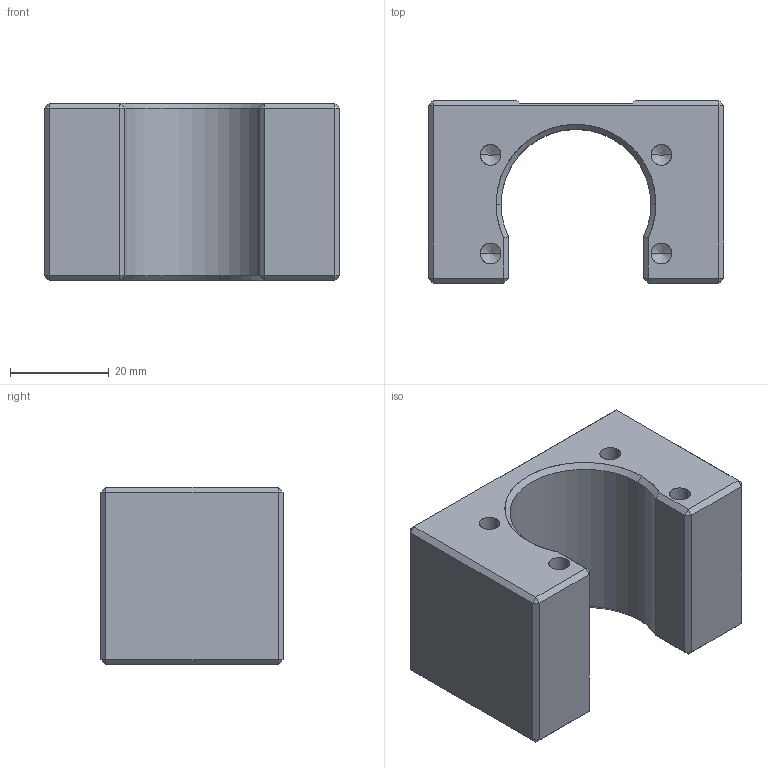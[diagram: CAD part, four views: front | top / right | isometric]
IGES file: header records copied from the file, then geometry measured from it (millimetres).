
Start section: SolidWorks IGES file using analytic representation for surfaces
Global section: file name: D:\目前進行中\MC系列螺帽座\MC1205\MC1205.IGS; native system: SolidWorks 2008; preprocessor: SolidWorks 2008; author: 070; date: 080609.110802; units: millimetre
Bounding box: 60 x 37 x 36 mm (x, y, z)
Surface area: 12932.5 mm2 (no closed solid volume)
Topology: 0 solids, 0 shells, 86 faces, 682 edges, 666 vertices
Faces by surface type: bspline 45, revolution 41
